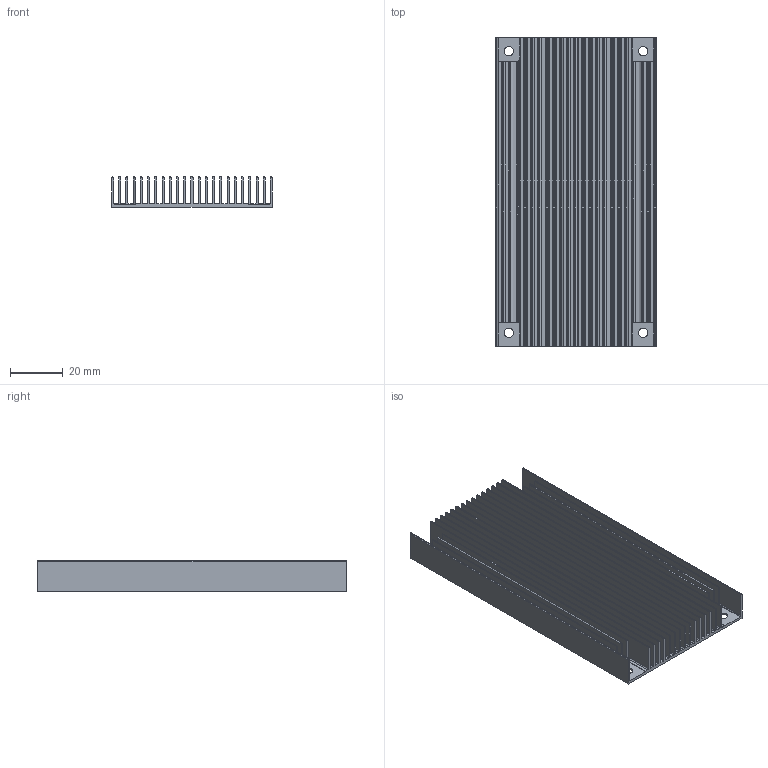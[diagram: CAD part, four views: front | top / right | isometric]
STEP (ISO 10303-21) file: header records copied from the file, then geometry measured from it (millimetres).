
FILE_DESCRIPTION (( 'STEP AP214' ), '1' );
FILE_NAME ('HS1592E_F.STEP', '2023-03-03T19:10:46', ( '' ), ( '' ), 'SwSTEP 2.0', 'SolidWorks 2020', '' );
FILE_SCHEMA (( 'AUTOMOTIVE_DESIGN' ));
Length unit declared in the file: inch
Products named in the file (1): HS1592E_F
Bounding box: 60.96 x 116.84 x 11.43 mm (x, y, z)
Volume: 28914.4 mm3; surface area: 66187.9 mm2
Topology: 1 solids, 1 shells, 211 faces, 615 edges, 410 vertices
Faces by surface type: plane 114, cylinder 97
Entity records: 7244 total; most frequent: CARTESIAN_POINT 1451, ORIENTED_EDGE 1230, DIRECTION 1205, EDGE_CURVE 615, VERTEX_POINT 410, VECTOR 407, LINE 407, AXIS2_PLACEMENT_3D 399
